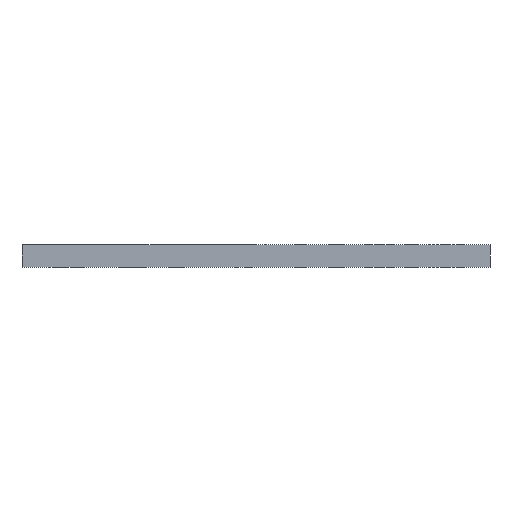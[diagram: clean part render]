
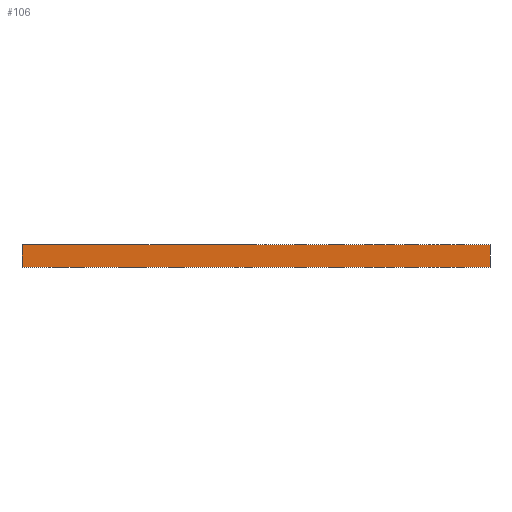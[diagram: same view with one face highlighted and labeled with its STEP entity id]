
A CAD part, left-side view. The second image highlights one B-rep face of the part: STEP entity #106.
In plain terms, the highlighted planar face has unit normal (-1, 0, 0).
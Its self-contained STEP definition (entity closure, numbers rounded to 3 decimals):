
#50 = VERTEX_POINT('',#51);
#51 = CARTESIAN_POINT('',(0.,-32.,1.51));
#57 = EDGE_CURVE('',#58,#50,#60,.T.);
#58 = VERTEX_POINT('',#59);
#59 = CARTESIAN_POINT('',(0.,-32.,0.));
#60 = LINE('',#61,#62);
#61 = CARTESIAN_POINT('',(0.,-32.,0.));
#62 = VECTOR('',#63,1.);
#63 = DIRECTION('',(0.,0.,1.));
#106 = ADVANCED_FACE('',(#107),#132,.T.);
#107 = FACE_BOUND('',#108,.T.);
#108 = EDGE_LOOP('',(#109,#110,#118,#126));
#109 = ORIENTED_EDGE('',*,*,#57,.T.);
#110 = ORIENTED_EDGE('',*,*,#111,.T.);
#111 = EDGE_CURVE('',#50,#112,#114,.T.);
#112 = VERTEX_POINT('',#113);
#113 = CARTESIAN_POINT('',(0.,0.,1.51));
#114 = LINE('',#115,#116);
#115 = CARTESIAN_POINT('',(0.,-32.,1.51));
#116 = VECTOR('',#117,1.);
#117 = DIRECTION('',(0.,1.,0.));
#118 = ORIENTED_EDGE('',*,*,#119,.F.);
#119 = EDGE_CURVE('',#120,#112,#122,.T.);
#120 = VERTEX_POINT('',#121);
#121 = CARTESIAN_POINT('',(0.,-0.,0.));
#122 = LINE('',#123,#124);
#123 = CARTESIAN_POINT('',(0.,-0.,0.));
#124 = VECTOR('',#125,1.);
#125 = DIRECTION('',(0.,0.,1.));
#126 = ORIENTED_EDGE('',*,*,#127,.F.);
#127 = EDGE_CURVE('',#58,#120,#128,.T.);
#128 = LINE('',#129,#130);
#129 = CARTESIAN_POINT('',(0.,-32.,0.));
#130 = VECTOR('',#131,1.);
#131 = DIRECTION('',(0.,1.,0.));
#132 = PLANE('',#133);
#133 = AXIS2_PLACEMENT_3D('',#134,#135,#136);
#134 = CARTESIAN_POINT('',(0.,-32.,0.));
#135 = DIRECTION('',(-1.,0.,0.));
#136 = DIRECTION('',(0.,1.,0.));
